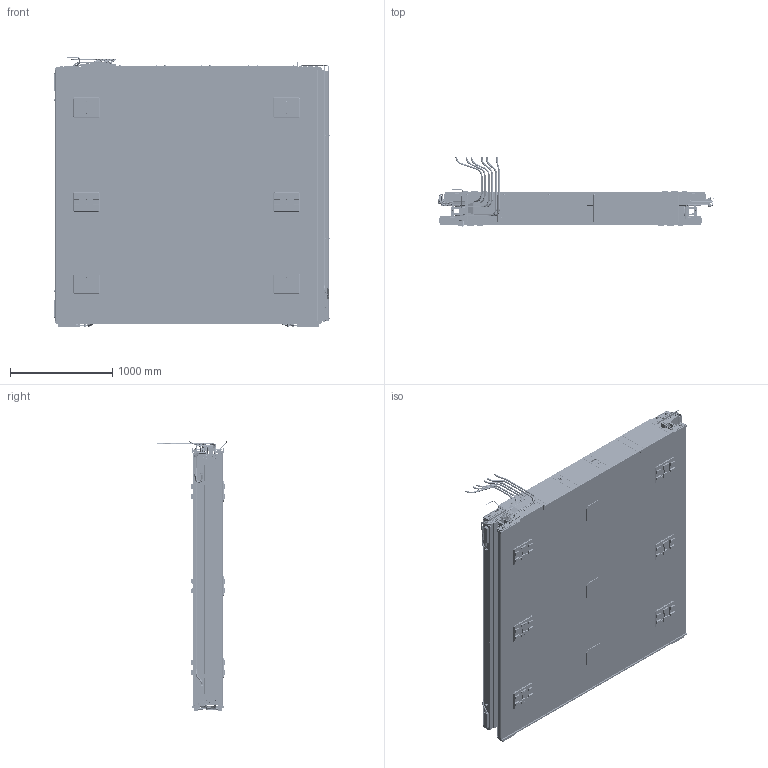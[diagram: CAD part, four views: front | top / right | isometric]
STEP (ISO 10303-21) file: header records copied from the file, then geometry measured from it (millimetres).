
FILE_DESCRIPTION(/* description */ (''),/* implementation_level */ '2;1');
FILE_NAME(/* name */ '030930_mb2_2_2_4_th_phi_L_carters.stp',/* time_stamp */ '2022-04-14T13:28:34+02:00',/* author */ (''),/* organization */ (''),/* preprocessor_version */ 'ST-DEVELOPER v18.1',/* originating_system */ 'SIEMENS PLM Software NX 1992',/* authorisation */ '');
FILE_SCHEMA (('AUTOMOTIVE_DESIGN { 1 0 10303 214 3 1 1 1 }'));
Products named in the file (1): zago349C2021bnkg
Bounding box: 2695.4 x 692.7 x 2640.3 mm (x, y, z)
Volume: 813172785.3 mm3; surface area: 148905947.2 mm2
Topology: 300 solids, 300 shells, 14694 faces, 38194 edges, 24081 vertices
Faces by surface type: plane 8885, cylinder 4610, cone 907, bspline 132, torus 117, sphere 43
Full cylindrical faces by diameter (mm): 1 x219, 1.675 x12, 2.459 x3, 2.594 x54, 3 x76, 3.2 x12, 3.3 x36, 3.432 x473, 3.5 x53, 3.778 x7, 4 x39, 4.5 x1, 4.8 x33, 5 x90, 5.188 x64, 5.5 x284, 6 x40, 6.4 x24, 6.5 x16, 7 x3, 7.188 x4, 7.5 x72, 8 x69, 8.6 x6, 8.782 x28, 8.933 x24, 8.985 x24, 9.061 x1, 9.391 x48, 9.5 x64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
Entity records: 464678 total; most frequent: CARTESIAN_POINT 117877, ORIENTED_EDGE 67012, DIRECTION 64772, EDGE_CURVE 33506, AXIS2_PLACEMENT_3D 23749, VERTEX_POINT 22780, EDGE_LOOP 20638, LINE 17274
